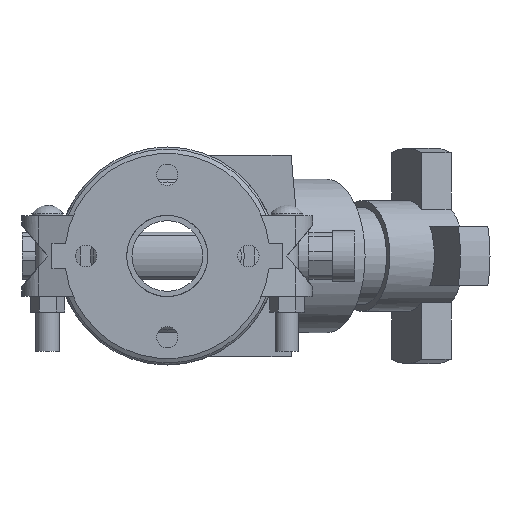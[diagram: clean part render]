
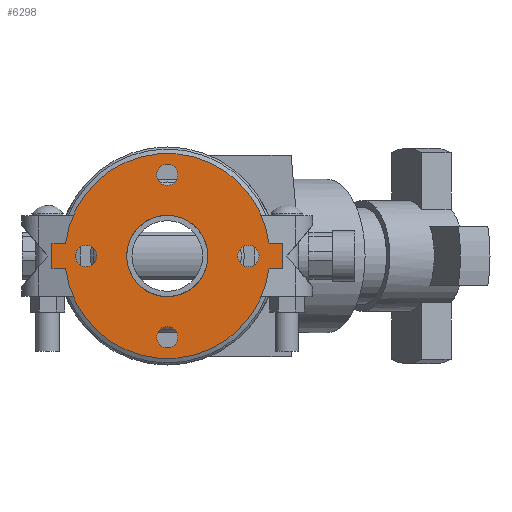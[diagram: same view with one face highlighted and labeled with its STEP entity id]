
A CAD part, front view. The second image highlights one B-rep face of the part: STEP entity #6298.
In plain terms, the highlighted planar face has unit normal (0, -1, 0) as drawn and (0, 0, 1) by its records, which use the part's own axes.
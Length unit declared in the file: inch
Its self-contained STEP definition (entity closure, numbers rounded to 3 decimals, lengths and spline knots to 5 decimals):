
#173=FACE_BOUND('',#795,.T.);
#174=FACE_BOUND('',#796,.T.);
#175=FACE_BOUND('',#797,.T.);
#176=FACE_BOUND('',#798,.T.);
#177=FACE_BOUND('',#799,.T.);
#240=PLANE('',#6855);
#446=FACE_OUTER_BOUND('',#794,.T.);
#794=EDGE_LOOP('',(#4074,#4075,#4076,#4077,#4078,#4079,#4080,#4081));
#795=EDGE_LOOP('',(#4082));
#796=EDGE_LOOP('',(#4083));
#797=EDGE_LOOP('',(#4084));
#798=EDGE_LOOP('',(#4085));
#799=EDGE_LOOP('',(#4086,#4087));
#1199=LINE('',#9623,#1672);
#1200=LINE('',#9626,#1673);
#1203=LINE('',#9631,#1676);
#1204=LINE('',#9634,#1677);
#1206=LINE('',#9637,#1679);
#1207=LINE('',#9639,#1680);
#1672=VECTOR('',#7646,0.3937);
#1673=VECTOR('',#7649,0.3937);
#1676=VECTOR('',#7654,0.3937);
#1677=VECTOR('',#7657,0.3937);
#1679=VECTOR('',#7661,0.3937);
#1680=VECTOR('',#7664,0.3937);
#2129=CIRCLE('',#6826,0.3125);
#2131=CIRCLE('',#6829,0.3125);
#2133=CIRCLE('',#6832,0.3125);
#2135=CIRCLE('',#6835,0.3125);
#2141=CIRCLE('',#6843,3.);
#2142=CIRCLE('',#6845,1.1875);
#2143=CIRCLE('',#6846,1.1875);
#2144=CIRCLE('',#6848,3.);
#2492=VERTEX_POINT('',#9558);
#2494=VERTEX_POINT('',#9564);
#2496=VERTEX_POINT('',#9570);
#2498=VERTEX_POINT('',#9576);
#2510=VERTEX_POINT('',#9603);
#2511=VERTEX_POINT('',#9605);
#2512=VERTEX_POINT('',#9609);
#2513=VERTEX_POINT('',#9611);
#2514=VERTEX_POINT('',#9615);
#2515=VERTEX_POINT('',#9617);
#2516=VERTEX_POINT('',#9621);
#2517=VERTEX_POINT('',#9625);
#2518=VERTEX_POINT('',#9629);
#2519=VERTEX_POINT('',#9633);
#3102=EDGE_CURVE('',#2492,#2492,#2129,.T.);
#3105=EDGE_CURVE('',#2494,#2494,#2131,.T.);
#3108=EDGE_CURVE('',#2496,#2496,#2133,.T.);
#3111=EDGE_CURVE('',#2498,#2498,#2135,.T.);
#3126=EDGE_CURVE('',#2510,#2511,#2141,.T.);
#3128=EDGE_CURVE('',#2513,#2512,#2142,.T.);
#3129=EDGE_CURVE('',#2512,#2513,#2143,.T.);
#3131=EDGE_CURVE('',#2515,#2514,#2144,.T.);
#3134=EDGE_CURVE('',#2511,#2516,#1199,.T.);
#3135=EDGE_CURVE('',#2517,#2515,#1200,.T.);
#3138=EDGE_CURVE('',#2514,#2518,#1203,.T.);
#3139=EDGE_CURVE('',#2519,#2510,#1204,.T.);
#3141=EDGE_CURVE('',#2518,#2519,#1206,.T.);
#3142=EDGE_CURVE('',#2516,#2517,#1207,.T.);
#4074=ORIENTED_EDGE('',*,*,#3138,.T.);
#4075=ORIENTED_EDGE('',*,*,#3141,.T.);
#4076=ORIENTED_EDGE('',*,*,#3139,.T.);
#4077=ORIENTED_EDGE('',*,*,#3126,.T.);
#4078=ORIENTED_EDGE('',*,*,#3134,.T.);
#4079=ORIENTED_EDGE('',*,*,#3142,.T.);
#4080=ORIENTED_EDGE('',*,*,#3135,.T.);
#4081=ORIENTED_EDGE('',*,*,#3131,.T.);
#4082=ORIENTED_EDGE('',*,*,#3102,.T.);
#4083=ORIENTED_EDGE('',*,*,#3105,.T.);
#4084=ORIENTED_EDGE('',*,*,#3108,.T.);
#4085=ORIENTED_EDGE('',*,*,#3111,.T.);
#4086=ORIENTED_EDGE('',*,*,#3128,.T.);
#4087=ORIENTED_EDGE('',*,*,#3129,.T.);
#6298=ADVANCED_FACE('',(#446,#173,#174,#175,#176,#177),#240,.T.);
#6826=AXIS2_PLACEMENT_3D('',#9559,#7582,#7583);
#6829=AXIS2_PLACEMENT_3D('',#9565,#7589,#7590);
#6832=AXIS2_PLACEMENT_3D('',#9571,#7596,#7597);
#6835=AXIS2_PLACEMENT_3D('',#9577,#7603,#7604);
#6843=AXIS2_PLACEMENT_3D('',#9607,#7628,#7629);
#6845=AXIS2_PLACEMENT_3D('',#9612,#7633,#7634);
#6846=AXIS2_PLACEMENT_3D('',#9613,#7635,#7636);
#6848=AXIS2_PLACEMENT_3D('',#9618,#7640,#7641);
#6855=AXIS2_PLACEMENT_3D('',#9640,#7665,#7666);
#7582=DIRECTION('center_axis',(0.,0.,-1.));
#7583=DIRECTION('ref_axis',(0.,1.,0.));
#7589=DIRECTION('center_axis',(0.,0.,-1.));
#7590=DIRECTION('ref_axis',(1.,0.,0.));
#7596=DIRECTION('center_axis',(0.,0.,-1.));
#7597=DIRECTION('ref_axis',(0.,-1.,0.));
#7603=DIRECTION('center_axis',(0.,0.,-1.));
#7604=DIRECTION('ref_axis',(-1.,0.,0.));
#7628=DIRECTION('center_axis',(0.,0.,1.));
#7629=DIRECTION('ref_axis',(-1.,0.,0.));
#7633=DIRECTION('center_axis',(0.,0.,-1.));
#7634=DIRECTION('ref_axis',(-1.,0.,0.));
#7635=DIRECTION('center_axis',(0.,0.,-1.));
#7636=DIRECTION('ref_axis',(-1.,0.,0.));
#7640=DIRECTION('center_axis',(0.,0.,1.));
#7641=DIRECTION('ref_axis',(-1.,0.,0.));
#7646=DIRECTION('',(0.,1.,0.));
#7649=DIRECTION('',(0.,-1.,0.));
#7654=DIRECTION('',(0.,-1.,0.));
#7657=DIRECTION('',(0.,1.,0.));
#7661=DIRECTION('',(1.,0.,0.));
#7664=DIRECTION('',(-1.,0.,0.));
#7665=DIRECTION('center_axis',(0.,0.,1.));
#7666=DIRECTION('ref_axis',(1.,0.,0.));
#9558=CARTESIAN_POINT('',(0.,2.0625,0.375));
#9559=CARTESIAN_POINT('Origin',(0.,2.375,0.375));
#9564=CARTESIAN_POINT('',(2.0625,0.,0.375));
#9565=CARTESIAN_POINT('Origin',(2.375,0.,0.375));
#9570=CARTESIAN_POINT('',(0.,-2.0625,0.375));
#9571=CARTESIAN_POINT('Origin',(0.,-2.375,0.375));
#9576=CARTESIAN_POINT('',(-2.0625,0.,0.375));
#9577=CARTESIAN_POINT('Origin',(-2.375,0.,0.375));
#9603=CARTESIAN_POINT('',(0.375,-2.97647,0.375));
#9605=CARTESIAN_POINT('',(0.375,2.97647,0.375));
#9607=CARTESIAN_POINT('Origin',(0.,0.,0.375));
#9609=CARTESIAN_POINT('',(1.1875,0.,0.375));
#9611=CARTESIAN_POINT('',(0.375,1.12673,0.375));
#9612=CARTESIAN_POINT('Origin',(0.,0.,0.375));
#9613=CARTESIAN_POINT('Origin',(0.,0.,0.375));
#9615=CARTESIAN_POINT('',(-0.375,-2.97647,0.375));
#9617=CARTESIAN_POINT('',(-0.375,2.97647,0.375));
#9618=CARTESIAN_POINT('Origin',(0.,0.,0.375));
#9621=CARTESIAN_POINT('',(0.375,3.375,0.375));
#9623=CARTESIAN_POINT('',(0.375,3.375,0.375));
#9625=CARTESIAN_POINT('',(-0.375,3.375,0.375));
#9626=CARTESIAN_POINT('',(-0.375,-3.375,0.375));
#9629=CARTESIAN_POINT('',(-0.375,-3.375,0.375));
#9631=CARTESIAN_POINT('',(-0.375,-3.375,0.375));
#9633=CARTESIAN_POINT('',(0.375,-3.375,0.375));
#9634=CARTESIAN_POINT('',(0.375,3.375,0.375));
#9637=CARTESIAN_POINT('',(0.375,-3.375,0.375));
#9639=CARTESIAN_POINT('',(-0.375,3.375,0.375));
#9640=CARTESIAN_POINT('Origin',(0.,0.,0.375));
